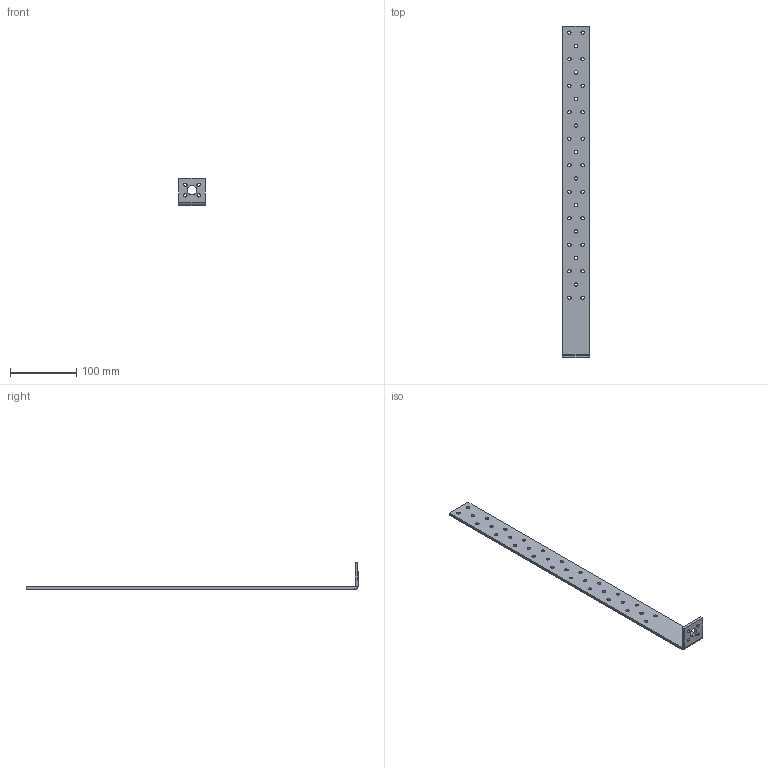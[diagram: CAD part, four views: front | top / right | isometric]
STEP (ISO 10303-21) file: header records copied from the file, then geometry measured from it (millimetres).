
FILE_DESCRIPTION (( 'STEP AP203' ), '1' );
FILE_NAME ('90512.STEP', '2021-06-22T14:12:45', ( '' ), ( '' ), 'SwSTEP 2.0', 'SolidWorks 2013', '' );
FILE_SCHEMA (( 'CONFIG_CONTROL_DESIGN' ));
Length unit declared in the file: millimetre
Products named in the file (1): 90512
Bounding box: 40 x 500.84 x 40.84 mm (x, y, z)
Volume: 82398.9 mm3; surface area: 48249.5 mm2
Topology: 1 solids, 1 shells, 88 faces, 250 edges, 164 vertices
Faces by surface type: cylinder 76, plane 12
Entity records: 3169 total; most frequent: DIRECTION 580, CARTESIAN_POINT 503, ORIENTED_EDGE 500, EDGE_CURVE 250, AXIS2_PLACEMENT_3D 241, VERTEX_POINT 164, EDGE_LOOP 162, CIRCLE 152
